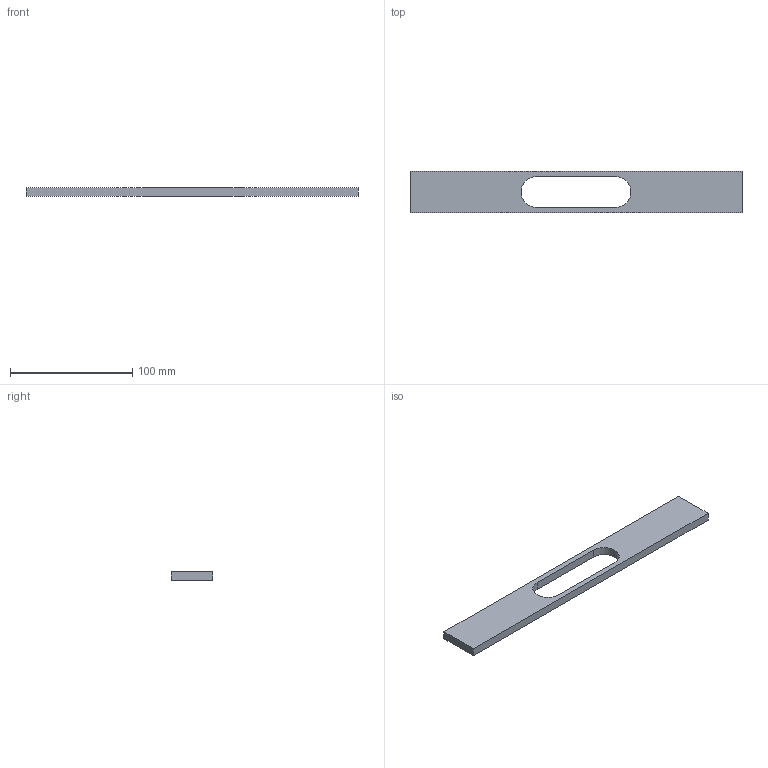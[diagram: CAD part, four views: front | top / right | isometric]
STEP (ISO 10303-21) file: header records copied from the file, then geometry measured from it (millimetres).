
FILE_DESCRIPTION( ( 'STEP AP214' ), '1' );
FILE_NAME( 'C:/Users/swati/Desktop/10-03-2016/11-03-2016/9112674/9112674.stp', ' ', ( ' ' ), ( ' ' ), 'PSStep 15.0.47', 'PARTsolutions', ' ' );
FILE_SCHEMA( ( 'AUTOMOTIVE_DESIGN { 1 0 10303 214 1 1 1 1 }' ) );
Length unit declared in the file: millimetre
Products named in the file (2): 95 ; _
Assembly tree (1 placements, depth 2):
  95 
    _
Bounding box: 272 x 34 x 7 mm (x, y, z)
Volume: 49522.8 mm3; surface area: 20410.2 mm2
Topology: 1 solids, 1 shells, 18 faces, 36 edges, 24 vertices
Faces by surface type: plane 12, cylinder 6
Full cylindrical faces by diameter (mm): 4 x4
Entity records: 638 total; most frequent: DIRECTION 84, CARTESIAN_POINT 76, ORIENTED_EDGE 64, AXIS2_PLACEMENT_3D 32, EDGE_CURVE 32, EDGE_LOOP 28, VERTEX_POINT 24, FACE_OUTER_BOUND 22
